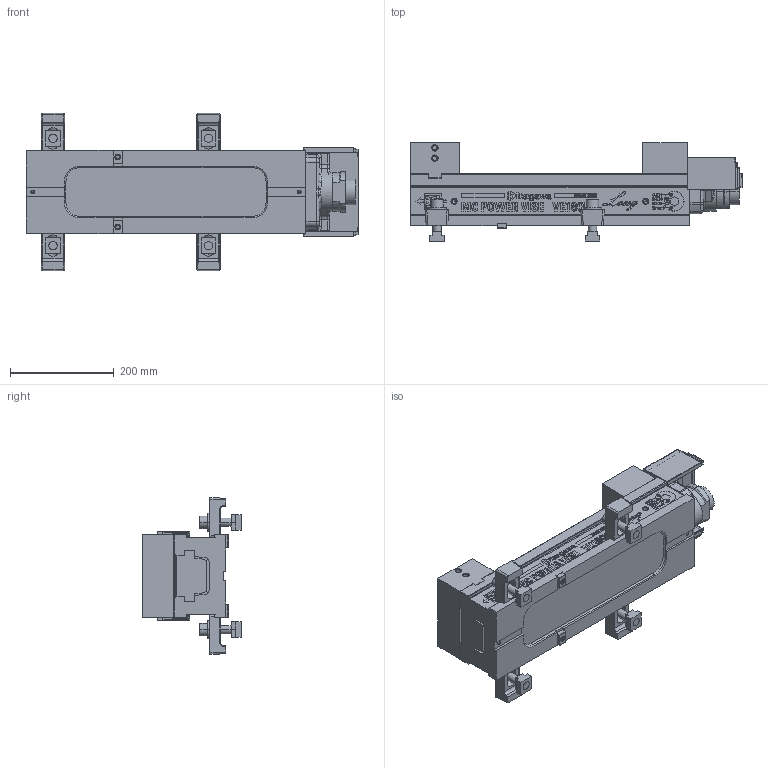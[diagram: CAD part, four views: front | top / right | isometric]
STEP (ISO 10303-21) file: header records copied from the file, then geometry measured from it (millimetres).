
FILE_DESCRIPTION (( 'STEP AP214' ), '1' );
FILE_NAME ('VE160LN_O.STEP', '2023-08-04T06:42:07', ( '' ), ( '' ), 'SwSTEP 2.0', 'SolidWorks 2020', '' );
FILE_SCHEMA (( 'AUTOMOTIVE_DESIGN' ));
Length unit declared in the file: millimetre
Products named in the file (21): 僒僀僪僔乕儖R(61M2680380); 僗儔僀僪僇僶乕Z(61M3523324)VE160; 僕儑乕F(61M3963590)VE160N; カバーリング(61M4399252)VE160N; Bアナツキ M16×65; クランプクミタテ(61M420565); 僗儔僀僪僇僶乕X(61M3593344)VE160L; スプリングケース(61M2367022)VE160; ボデー(61M2402834)VE160L; エンドカバー(61M4625110)VE160N; 僗儔僀僪僇僶乕W(61M3593323)VE160L; 儚僢僔儍丂16乮61M4266330乯; クランプ(61M3159626)VP160; 僒僀僪僔乕儖L(61M2680390); VE160LNホンタイ; VE160LN_O; 僗儔僀僪僇僶乕Y(61M3523315)VE160; 僕儑乕M(61俵3963600)VE160N; リボルバ部; T僗儘僢僩僫僢僩俿俶俵侾俉侾俇; ガイドブロック(61M4197783)
Assembly tree (24 placements, depth 3):
  VE160LN_O
    VE160LNホンタイ
      ボデー(61M2402834)VE160L
      ガイドブロック(61M4197783)  x2
      僕儑乕F(61M3963590)VE160N
      スプリングケース(61M2367022)VE160
      カバーリング(61M4399252)VE160N
      リボルバ部
      エンドカバー(61M4625110)VE160N
      僕儑乕M(61俵3963600)VE160N
      僗儔僀僪僇僶乕Y(61M3523315)VE160
      僗儔僀僪僇僶乕Z(61M3523324)VE160
      僗儔僀僪僇僶乕W(61M3593323)VE160L
      僗儔僀僪僇僶乕X(61M3593344)VE160L
      僒僀僪僔乕儖L(61M2680390)
      僒僀僪僔乕儖R(61M2680380)
    クランプクミタテ(61M420565)  x4
      クランプ(61M3159626)VP160
      儚僢僔儍丂16乮61M4266330乯
      Bアナツキ M16×65
      T僗儘僢僩僫僢僩俿俶俵侾俉侾俇
Bounding box: 640.4 x 190 x 303 mm (x, y, z)
Volume: 10783037.2 mm3; surface area: 1002237.1 mm2
Topology: 31 solids, 31 shells, 1225 faces, 6294 edges, 5437 vertices
Faces by surface type: plane 848, cylinder 263, cone 79, torus 21, bspline 14
Entity records: 70933 total; most frequent: CARTESIAN_POINT 18878, ORIENTED_EDGE 11522, DIRECTION 7851, EDGE_CURVE 5761, VERTEX_POINT 5107, LINE 4725, VECTOR 4725, AXIS2_PLACEMENT_3D 1563
